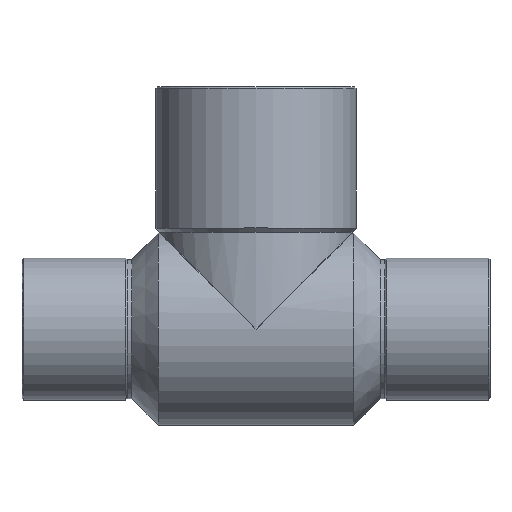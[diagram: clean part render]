
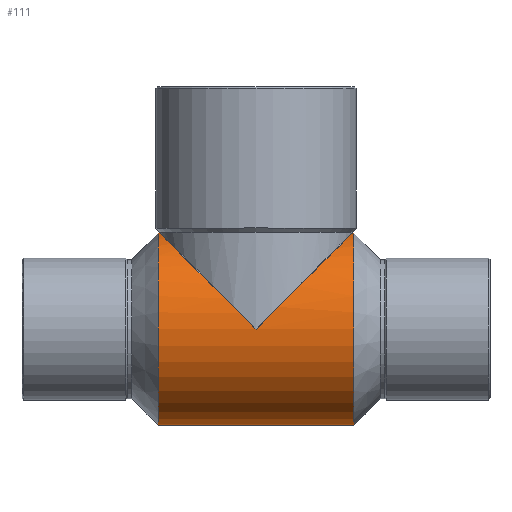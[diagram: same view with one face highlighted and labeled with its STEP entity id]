
A CAD part, top view. The second image highlights one B-rep face of the part: STEP entity #111.
In plain terms, the highlighted cylindrical face has radius 11.5 mm (diameter 23 mm), a partial arc.
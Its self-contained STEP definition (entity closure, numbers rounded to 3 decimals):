
#44=CARTESIAN_POINT('',(0.,0.,0.0));
#45=DIRECTION('',(1.0,0.,0.0));
#46=DIRECTION('',(0.0,1.0,0.0));
#47=AXIS2_PLACEMENT_3D('',#44,#45,#46);
#48=CYLINDRICAL_SURFACE('',#47,11.5);
#49=CARTESIAN_POINT('',(-11.69,11.5,0.0));
#50=VERTEX_POINT('',#49);
#51=CARTESIAN_POINT('',(-11.55,11.5,0.));
#52=VERTEX_POINT('',#51);
#53=CARTESIAN_POINT('',(-11.69,11.5,0.0));
#54=DIRECTION('',(1.0,0.0,0.0));
#55=VECTOR('',#54,0.14);
#56=LINE('',#53,#55);
#57=EDGE_CURVE('',#50,#52,#56,.T.);
#58=ORIENTED_EDGE('',*,*,#57,.F.);
#59=CARTESIAN_POINT('',(-11.69,-11.5,0.));
#60=VERTEX_POINT('',#59);
#61=CARTESIAN_POINT('',(-11.69,0.,0.0));
#62=DIRECTION('',(1.0,0.0,0.0));
#63=DIRECTION('',(0.0,1.0,0.0));
#64=AXIS2_PLACEMENT_3D('',#61,#62,#63);
#65=CIRCLE('',#64,11.5);
#66=EDGE_CURVE('',#50,#60,#65,.T.);
#67=ORIENTED_EDGE('',*,*,#66,.T.);
#68=CARTESIAN_POINT('',(11.69,-11.5,0.));
#69=VERTEX_POINT('',#68);
#70=CARTESIAN_POINT('',(11.69,-11.5,0.));
#71=DIRECTION('',(-1.0,0.0,0.0));
#72=VECTOR('',#71,23.38);
#73=LINE('',#70,#72);
#74=EDGE_CURVE('',#69,#60,#73,.T.);
#75=ORIENTED_EDGE('',*,*,#74,.F.);
#76=CARTESIAN_POINT('',(11.69,11.5,0.0));
#77=VERTEX_POINT('',#76);
#78=CARTESIAN_POINT('',(11.69,0.,0.0));
#79=DIRECTION('',(-1.0,0.0,0.0));
#80=DIRECTION('',(0.0,1.0,0.0));
#81=AXIS2_PLACEMENT_3D('',#78,#79,#80);
#82=CIRCLE('',#81,11.5);
#83=EDGE_CURVE('',#69,#77,#82,.T.);
#84=ORIENTED_EDGE('',*,*,#83,.T.);
#85=CARTESIAN_POINT('',(11.55,11.5,0.));
#86=VERTEX_POINT('',#85);
#87=CARTESIAN_POINT('',(11.55,11.5,0.));
#88=DIRECTION('',(1.0,0.0,0.0));
#89=VECTOR('',#88,0.14);
#90=LINE('',#87,#89);
#91=EDGE_CURVE('',#86,#77,#90,.T.);
#92=ORIENTED_EDGE('',*,*,#91,.F.);
#93=CARTESIAN_POINT('',(0.,0.,11.5));
#94=VERTEX_POINT('',#93);
#95=CARTESIAN_POINT('',(0.0,0.,0.0));
#96=DIRECTION('',(-0.706,0.709,0.));
#97=DIRECTION('',(0.709,0.706,0.0));
#98=AXIS2_PLACEMENT_3D('',#95,#96,#97);
#99=ELLIPSE('',#98,16.299,11.5);
#100=EDGE_CURVE('',#94,#86,#99,.T.);
#101=ORIENTED_EDGE('',*,*,#100,.F.);
#102=CARTESIAN_POINT('',(0.0,0.,0.0));
#103=DIRECTION('',(0.706,0.709,0.));
#104=DIRECTION('',(-0.709,0.706,0.0));
#105=AXIS2_PLACEMENT_3D('',#102,#103,#104);
#106=ELLIPSE('',#105,16.299,11.5);
#107=EDGE_CURVE('',#52,#94,#106,.T.);
#108=ORIENTED_EDGE('',*,*,#107,.F.);
#109=EDGE_LOOP('',(#58,#67,#75,#84,#92,#101,#108));
#110=FACE_OUTER_BOUND('',#109,.T.);
#111=ADVANCED_FACE('',(#110),#48,.T.);
